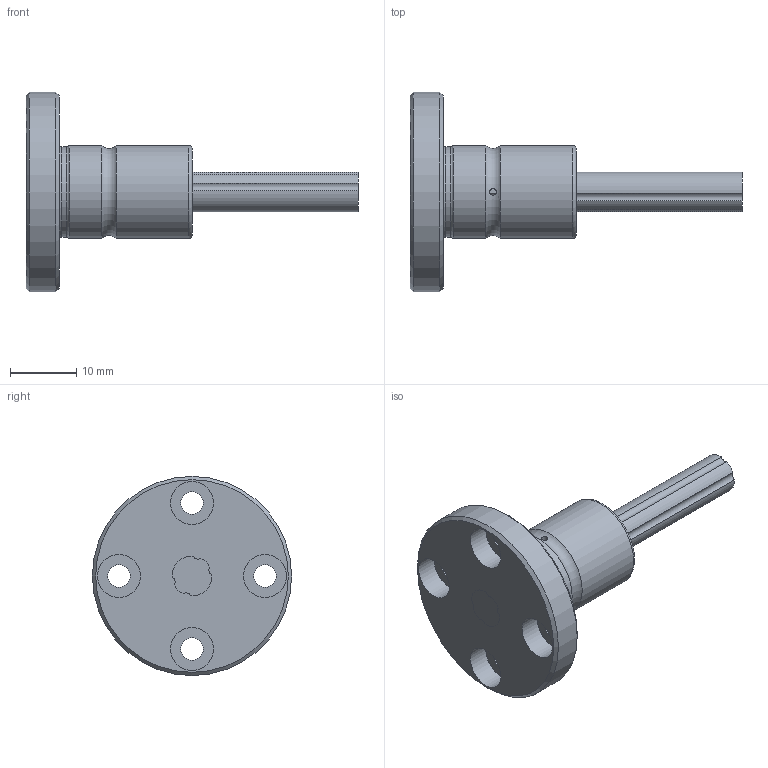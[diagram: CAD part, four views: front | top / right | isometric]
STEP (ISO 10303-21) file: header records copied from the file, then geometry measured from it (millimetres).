
FILE_DESCRIPTION(/* description */ ('STEP AP214'),/* implementation_level */ '2;1');
FILE_NAME(/* name */ 'LF6150(00)',/* time_stamp */ '2024-09-05T14:32:33+02:00',/* author */ ('License CC BY-ND 4.0'),/* organization */ ('CADENAS'),/* preprocessor_version */ 'ST-DEVELOPER v19.3',/* originating_system */ 'PARTsolutions',/* authorisation */ ' ');
FILE_SCHEMA (('AUTOMOTIVE_DESIGN {1 0 10303 214 3 1 1}'));
Length unit declared in the file: millimetre
Products named in the file (3): LF6150(00); LF 650 FTLFShaft; LF 6 FTLF Cylindar
Assembly tree (2 placements, depth 2):
  LF6150(00)
    LF 650 FTLFShaft
    LF 6 FTLF Cylindar
Bounding box: 50 x 30 x 30 mm (x, y, z)
Volume: 6721.9 mm3; surface area: 4455.1 mm2
Topology: 2 solids, 2 shells, 45 faces, 113 edges, 74 vertices
Faces by surface type: cylinder 30, plane 9, torus 4, cone 2
Full cylindrical faces by diameter (mm): 1 x2, 3.4 x4, 6.5 x4, 13.6 x1, 14 x2, 30 x1
Entity records: 1333 total; most frequent: CARTESIAN_POINT 242, DIRECTION 234, ORIENTED_EDGE 168, AXIS2_PLACEMENT_3D 108, EDGE_CURVE 84, EDGE_LOOP 82, FACE_BOUND 82, VERTEX_POINT 66
